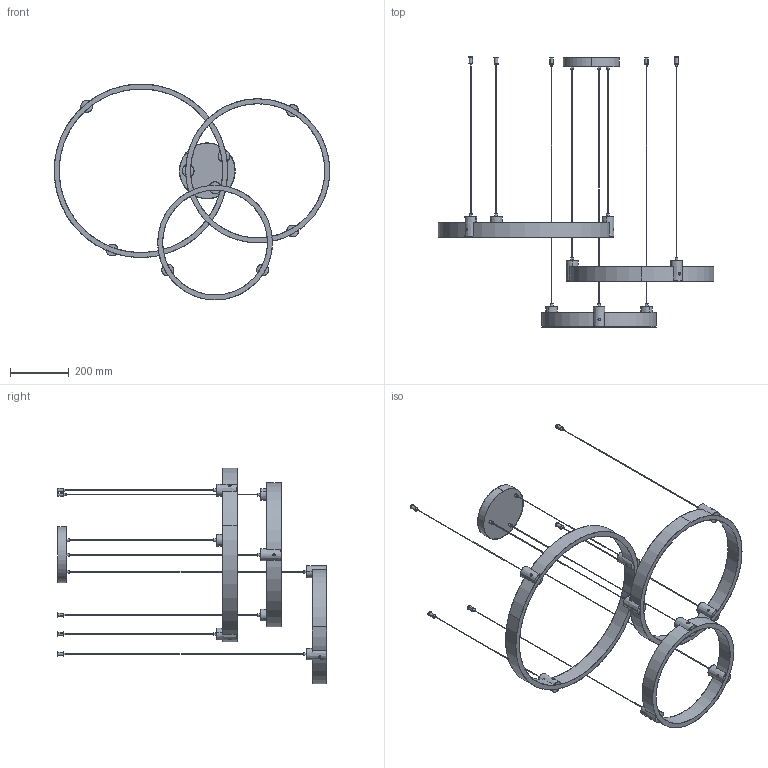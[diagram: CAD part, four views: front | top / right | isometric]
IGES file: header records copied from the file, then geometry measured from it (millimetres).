
Start section: SolidWorks IGES file using analytic representation for surfaces
Global section: file name: F:\燠隴矨\3D\2025-5\Celestial Orbit Travertine Chandelier-3rings-D59+49+39CM.IGS,15; native system: HSolidWorks 2022; preprocessor: SolidWorks 2022; author: MyPC; date: 250506.090128; units: millimetre
Bounding box: 937 x 917.5 x 734 mm (x, y, z)
Surface area: 860127.2 mm2 (no closed solid volume)
Topology: 0 solids, 0 shells, 301 faces, 7898 edges, 7898 vertices
Faces by surface type: revolution 208, bspline 93
